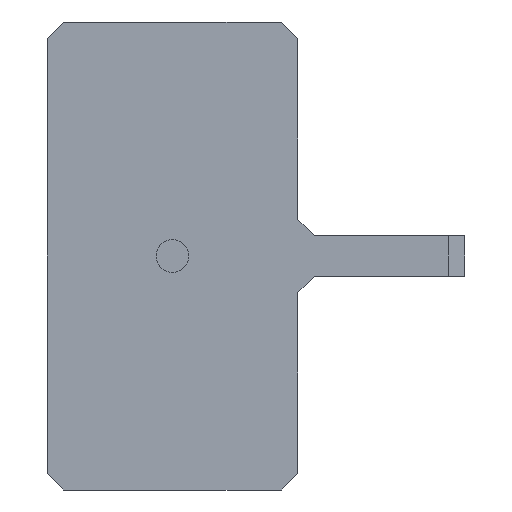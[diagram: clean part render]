
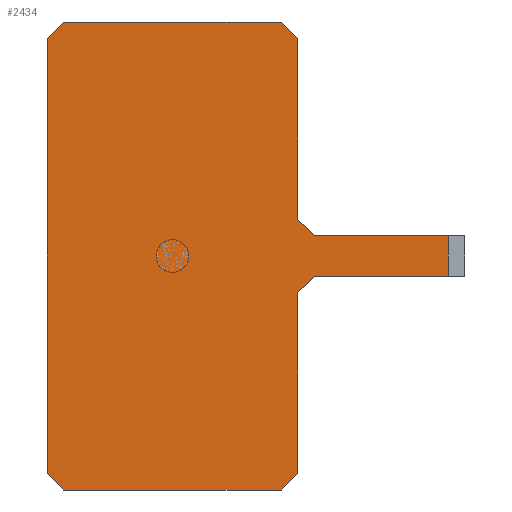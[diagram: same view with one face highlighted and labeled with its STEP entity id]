
A CAD part, front view. The second image highlights one B-rep face of the part: STEP entity #2434.
In plain terms, the highlighted planar face has unit normal (0, -1, 0).
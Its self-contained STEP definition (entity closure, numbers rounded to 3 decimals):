
#204=FACE_OUTER_BOUND('',#341,.T.);
#341=EDGE_LOOP('',(#1643,#1644,#1645,#1646,#1647,#1648,#1649,#1650,#1651,
#1652,#1653,#1654,#1655,#1656));
#479=LINE('',#3574,#733);
#483=LINE('',#3583,#737);
#486=LINE('',#3590,#740);
#491=LINE('',#3598,#745);
#493=LINE('',#3603,#747);
#504=LINE('',#3628,#758);
#505=LINE('',#3631,#759);
#515=LINE('',#3658,#769);
#516=LINE('',#3660,#770);
#517=LINE('',#3662,#771);
#518=LINE('',#3664,#772);
#519=LINE('',#3666,#773);
#520=LINE('',#3668,#774);
#521=LINE('',#3669,#775);
#733=VECTOR('',#2891,10.);
#737=VECTOR('',#2899,10.);
#740=VECTOR('',#2904,10.);
#745=VECTOR('',#2911,10.);
#747=VECTOR('',#2915,10.);
#758=VECTOR('',#2932,10.);
#759=VECTOR('',#2935,10.);
#769=VECTOR('',#2955,10.);
#770=VECTOR('',#2956,10.);
#771=VECTOR('',#2957,10.);
#772=VECTOR('',#2958,10.);
#773=VECTOR('',#2959,10.);
#774=VECTOR('',#2960,10.);
#775=VECTOR('',#2961,10.);
#984=VERTEX_POINT('',#3567);
#987=VERTEX_POINT('',#3572);
#990=VERTEX_POINT('',#3582);
#992=VERTEX_POINT('',#3588);
#993=VERTEX_POINT('',#3589);
#997=VERTEX_POINT('',#3602);
#1008=VERTEX_POINT('',#3626);
#1009=VERTEX_POINT('',#3630);
#1021=VERTEX_POINT('',#3657);
#1022=VERTEX_POINT('',#3659);
#1023=VERTEX_POINT('',#3661);
#1024=VERTEX_POINT('',#3663);
#1025=VERTEX_POINT('',#3665);
#1026=VERTEX_POINT('',#3667);
#1227=EDGE_CURVE('',#987,#984,#479,.T.);
#1231=EDGE_CURVE('',#990,#984,#483,.T.);
#1234=EDGE_CURVE('',#992,#993,#486,.T.);
#1239=EDGE_CURVE('',#993,#987,#491,.T.);
#1241=EDGE_CURVE('',#990,#997,#493,.T.);
#1254=EDGE_CURVE('',#992,#1008,#504,.T.);
#1255=EDGE_CURVE('',#1009,#997,#505,.T.);
#1268=EDGE_CURVE('',#1008,#1021,#515,.T.);
#1269=EDGE_CURVE('',#1021,#1022,#516,.T.);
#1270=EDGE_CURVE('',#1022,#1023,#517,.T.);
#1271=EDGE_CURVE('',#1023,#1024,#518,.T.);
#1272=EDGE_CURVE('',#1024,#1025,#519,.T.);
#1273=EDGE_CURVE('',#1025,#1026,#520,.T.);
#1274=EDGE_CURVE('',#1026,#1009,#521,.T.);
#1643=ORIENTED_EDGE('',*,*,#1227,.F.);
#1644=ORIENTED_EDGE('',*,*,#1239,.F.);
#1645=ORIENTED_EDGE('',*,*,#1234,.F.);
#1646=ORIENTED_EDGE('',*,*,#1254,.T.);
#1647=ORIENTED_EDGE('',*,*,#1268,.T.);
#1648=ORIENTED_EDGE('',*,*,#1269,.T.);
#1649=ORIENTED_EDGE('',*,*,#1270,.T.);
#1650=ORIENTED_EDGE('',*,*,#1271,.T.);
#1651=ORIENTED_EDGE('',*,*,#1272,.T.);
#1652=ORIENTED_EDGE('',*,*,#1273,.T.);
#1653=ORIENTED_EDGE('',*,*,#1274,.T.);
#1654=ORIENTED_EDGE('',*,*,#1255,.T.);
#1655=ORIENTED_EDGE('',*,*,#1241,.F.);
#1656=ORIENTED_EDGE('',*,*,#1231,.T.);
#2331=PLANE('',#2684);
#2434=ADVANCED_FACE('',(#204),#2331,.T.);
#2684=AXIS2_PLACEMENT_3D('',#3656,#2953,#2954);
#2891=DIRECTION('',(0.,0.,-1.));
#2899=DIRECTION('',(1.,0.,0.));
#2904=DIRECTION('',(0.707,0.,-0.707));
#2911=DIRECTION('',(1.,0.,0.));
#2915=DIRECTION('',(-0.707,0.,-0.707));
#2932=DIRECTION('',(0.,0.,1.));
#2935=DIRECTION('',(0.,0.,1.));
#2953=DIRECTION('center_axis',(0.,-1.,0.));
#2954=DIRECTION('ref_axis',(0.,0.,-1.));
#2955=DIRECTION('',(-0.707,0.,0.707));
#2956=DIRECTION('',(-1.,0.,0.));
#2957=DIRECTION('',(-0.707,0.,-0.707));
#2958=DIRECTION('',(0.,0.,-1.));
#2959=DIRECTION('',(0.707,0.,-0.707));
#2960=DIRECTION('',(1.,0.,0.));
#2961=DIRECTION('',(0.707,0.,0.707));
#3567=CARTESIAN_POINT('',(16.5,-2.,-1.2));
#3572=CARTESIAN_POINT('',(16.5,-2.,1.2));
#3574=CARTESIAN_POINT('',(16.5,-2.,0.));
#3582=CARTESIAN_POINT('',(8.5,-2.,-1.2));
#3583=CARTESIAN_POINT('',(7.5,-2.,-1.2));
#3588=CARTESIAN_POINT('',(7.5,-2.,2.2));
#3589=CARTESIAN_POINT('',(8.5,-2.,1.2));
#3590=CARTESIAN_POINT('',(6.425,-2.,3.275));
#3598=CARTESIAN_POINT('',(7.5,-2.,1.2));
#3602=CARTESIAN_POINT('',(7.5,-2.,-2.2));
#3603=CARTESIAN_POINT('',(6.425,-2.,-3.275));
#3626=CARTESIAN_POINT('',(7.5,-2.,13.));
#3628=CARTESIAN_POINT('',(7.5,-2.,-13.));
#3630=CARTESIAN_POINT('',(7.5,-2.,-13.));
#3631=CARTESIAN_POINT('',(7.5,-2.,-13.));
#3656=CARTESIAN_POINT('Origin',(0.,-2.,0.));
#3657=CARTESIAN_POINT('',(6.5,-2.,14.));
#3658=CARTESIAN_POINT('',(7.5,-2.,13.));
#3659=CARTESIAN_POINT('',(-6.5,-2.,14.));
#3660=CARTESIAN_POINT('',(6.5,-2.,14.));
#3661=CARTESIAN_POINT('',(-7.5,-2.,13.));
#3662=CARTESIAN_POINT('',(-6.5,-2.,14.));
#3663=CARTESIAN_POINT('',(-7.5,-2.,-13.));
#3664=CARTESIAN_POINT('',(-7.5,-2.,13.));
#3665=CARTESIAN_POINT('',(-6.5,-2.,-14.));
#3666=CARTESIAN_POINT('',(-7.5,-2.,-13.));
#3667=CARTESIAN_POINT('',(6.5,-2.,-14.));
#3668=CARTESIAN_POINT('',(-6.5,-2.,-14.));
#3669=CARTESIAN_POINT('',(6.5,-2.,-14.));
